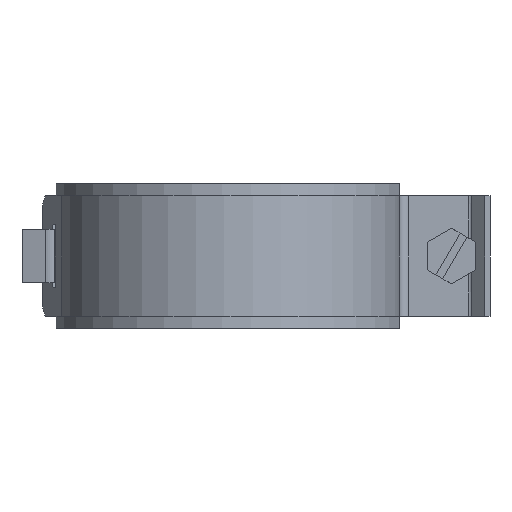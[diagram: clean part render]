
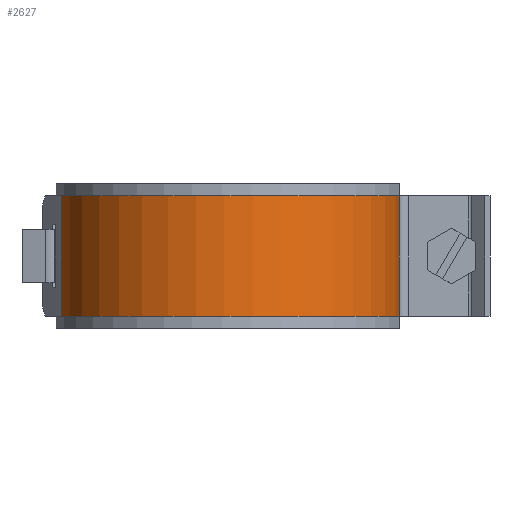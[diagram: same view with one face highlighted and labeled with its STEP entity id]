
A CAD part, front view. The second image highlights one B-rep face of the part: STEP entity #2627.
In plain terms, the highlighted cylindrical face has radius 35.5 mm (diameter 71 mm), a partial arc.
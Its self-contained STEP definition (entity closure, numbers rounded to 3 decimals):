
#89=CYLINDRICAL_SURFACE($,#2863,35.5);
#197=FACE_OUTER_BOUND($,#337,.T.);
#337=EDGE_LOOP($,(#2120,#2121,#2122,#2123,#2124,#2125));
#423=CIRCLE($,#2747,35.5);
#425=CIRCLE($,#2750,35.5);
#444=CIRCLE($,#2791,35.5);
#469=CIRCLE($,#2847,35.5);
#664=LINE($,#4235,#914);
#689=LINE($,#4284,#939);
#914=VECTOR($,#3472,25.);
#939=VECTOR($,#3517,25.);
#1068=VERTEX_POINT($,#3898);
#1069=VERTEX_POINT($,#3900);
#1072=VERTEX_POINT($,#3908);
#1073=VERTEX_POINT($,#3909);
#1114=VERTEX_POINT($,#4037);
#1175=VERTEX_POINT($,#4207);
#1341=EDGE_CURVE($,#1068,#1069,#423,.T.);
#1345=EDGE_CURVE($,#1072,#1073,#425,.T.);
#1410=EDGE_CURVE($,#1069,#1114,#444,.T.);
#1491=EDGE_CURVE($,#1175,#1072,#469,.T.);
#1504=EDGE_CURVE($,#1068,#1073,#664,.T.);
#1529=EDGE_CURVE($,#1114,#1175,#689,.T.);
#2120=ORIENTED_EDGE($,*,*,#1529,.F.);
#2121=ORIENTED_EDGE($,*,*,#1410,.F.);
#2122=ORIENTED_EDGE($,*,*,#1341,.F.);
#2123=ORIENTED_EDGE($,*,*,#1504,.T.);
#2124=ORIENTED_EDGE($,*,*,#1345,.F.);
#2125=ORIENTED_EDGE($,*,*,#1491,.F.);
#2627=ADVANCED_FACE($,(#197),#89,.T.);
#2747=AXIS2_PLACEMENT_3D($,#3901,#3148,#3149);
#2750=AXIS2_PLACEMENT_3D($,#3910,#3156,#3157);
#2791=AXIS2_PLACEMENT_3D($,#4038,#3284,#3285);
#2847=AXIS2_PLACEMENT_3D($,#4209,#3450,#3451);
#2863=AXIS2_PLACEMENT_3D($,#4285,#3518,#3519);
#3148=DIRECTION('center_axis',(0.,0.,1.));
#3149=DIRECTION('ref_axis',(0.98,0.199,0.));
#3156=DIRECTION('center_axis',(0.,0.,-1.));
#3157=DIRECTION('ref_axis',(0.98,0.199,0.));
#3284=DIRECTION('center_axis',(0.,0.,1.));
#3285=DIRECTION('ref_axis',(0.98,0.199,0.));
#3450=DIRECTION('center_axis',(0.,0.,-1.));
#3451=DIRECTION('ref_axis',(0.98,0.199,0.));
#3472=DIRECTION($,(0.,0.,-1.));
#3517=DIRECTION($,(0.,0.,-1.));
#3518=DIRECTION('center_axis',(0.,0.,1.));
#3519=DIRECTION('ref_axis',(0.98,0.199,0.));
#3898=CARTESIAN_POINT('',(-34.787,-7.078,12.5));
#3900=CARTESIAN_POINT('',(34.29,-9.188,12.5));
#3901=CARTESIAN_POINT('Origin',(0.,0.,12.5));
#3908=CARTESIAN_POINT('',(34.29,-9.188,-12.5));
#3909=CARTESIAN_POINT('',(-34.787,-7.078,-12.5));
#3910=CARTESIAN_POINT('Origin',(0.,0.,-12.5));
#4037=CARTESIAN_POINT('',(35.183,-4.733,12.5));
#4038=CARTESIAN_POINT('Origin',(0.,0.,12.5));
#4207=CARTESIAN_POINT('',(35.183,-4.733,-12.5));
#4209=CARTESIAN_POINT('Origin',(0.,0.,-12.5));
#4235=CARTESIAN_POINT($,(-34.787,-7.078,0.));
#4284=CARTESIAN_POINT($,(35.183,-4.733,0.));
#4285=CARTESIAN_POINT('Origin',(0.,0.,0.));
